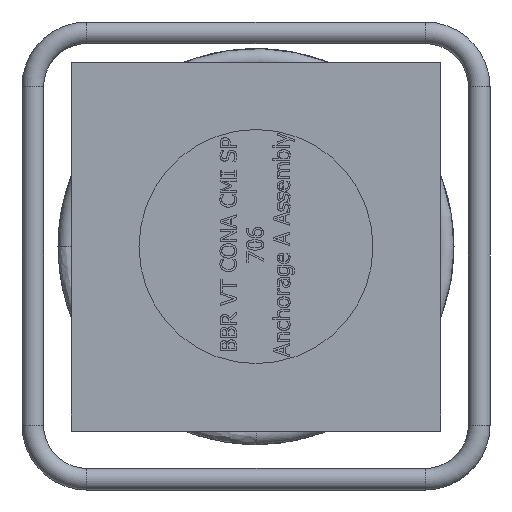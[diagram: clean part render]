
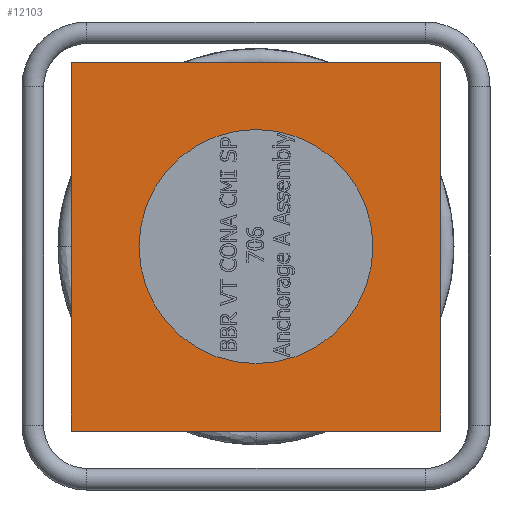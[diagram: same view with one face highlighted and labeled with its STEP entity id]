
A CAD part, left-side view. The second image highlights one B-rep face of the part: STEP entity #12103.
In plain terms, the highlighted planar face has unit normal (-1, 0, 0).
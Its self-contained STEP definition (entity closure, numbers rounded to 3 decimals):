
#1869=LINE('',#23579,#2891);
#1873=LINE('',#23586,#2895);
#1876=LINE('',#23591,#2898);
#1879=LINE('',#23595,#2901);
#2891=VECTOR('',#14317,205.);
#2895=VECTOR('',#14323,205.);
#2898=VECTOR('',#14328,205.);
#2901=VECTOR('',#14333,205.);
#3208=PLANE('',#12511);
#3334=FACE_BOUND('',#4702,.T.);
#3970=FACE_OUTER_BOUND('',#4701,.T.);
#4701=EDGE_LOOP('',(#10783,#10784,#10785,#10786));
#4702=EDGE_LOOP('',(#10787));
#4760=CIRCLE('',#12493,65.);
#5859=VERTEX_POINT('',#21328);
#5873=VERTEX_POINT('',#23577);
#5874=VERTEX_POINT('',#23578);
#5876=VERTEX_POINT('',#23585);
#5877=VERTEX_POINT('',#23590);
#7491=EDGE_CURVE('',#5859,#5859,#4760,.T.);
#7506=EDGE_CURVE('',#5873,#5874,#1869,.T.);
#7510=EDGE_CURVE('',#5874,#5876,#1873,.T.);
#7513=EDGE_CURVE('',#5876,#5877,#1876,.T.);
#7516=EDGE_CURVE('',#5877,#5873,#1879,.T.);
#10783=ORIENTED_EDGE('',*,*,#7516,.T.);
#10784=ORIENTED_EDGE('',*,*,#7506,.T.);
#10785=ORIENTED_EDGE('',*,*,#7510,.T.);
#10786=ORIENTED_EDGE('',*,*,#7513,.T.);
#10787=ORIENTED_EDGE('',*,*,#7491,.T.);
#12103=ADVANCED_FACE('',(#3970,#3334),#3208,.T.);
#12493=AXIS2_PLACEMENT_3D('',#21329,#14281,#14282);
#12511=AXIS2_PLACEMENT_3D('',#23597,#14335,#14336);
#14281=DIRECTION('center_axis',(1.,0.,0.));
#14282=DIRECTION('ref_axis',(0.,0.,
1.));
#14317=DIRECTION('',(0.,0.,-1.));
#14323=DIRECTION('',(0.,-1.,0.));
#14328=DIRECTION('',(0.,0.,1.));
#14333=DIRECTION('',(0.,1.,0.));
#14335=DIRECTION('center_axis',(-1.,0.,0.));
#14336=DIRECTION('ref_axis',(0.,0.,-1.));
#21328=CARTESIAN_POINT('',(-112.151,-65.,5.253));
#21329=CARTESIAN_POINT('Origin',(-112.151,0.,
5.253));
#23577=CARTESIAN_POINT('',(-112.151,102.5,107.753));
#23578=CARTESIAN_POINT('',(-112.151,102.5,-97.247));
#23579=CARTESIAN_POINT('',(-112.151,102.5,107.753));
#23585=CARTESIAN_POINT('',(-112.151,-102.5,-97.247));
#23586=CARTESIAN_POINT('',(-112.151,102.5,-97.247));
#23590=CARTESIAN_POINT('',(-112.151,-102.5,107.753));
#23591=CARTESIAN_POINT('',(-112.151,-102.5,-97.247));
#23595=CARTESIAN_POINT('',(-112.151,-102.5,107.753));
#23597=CARTESIAN_POINT('Origin',(-112.151,0.,
5.253));
